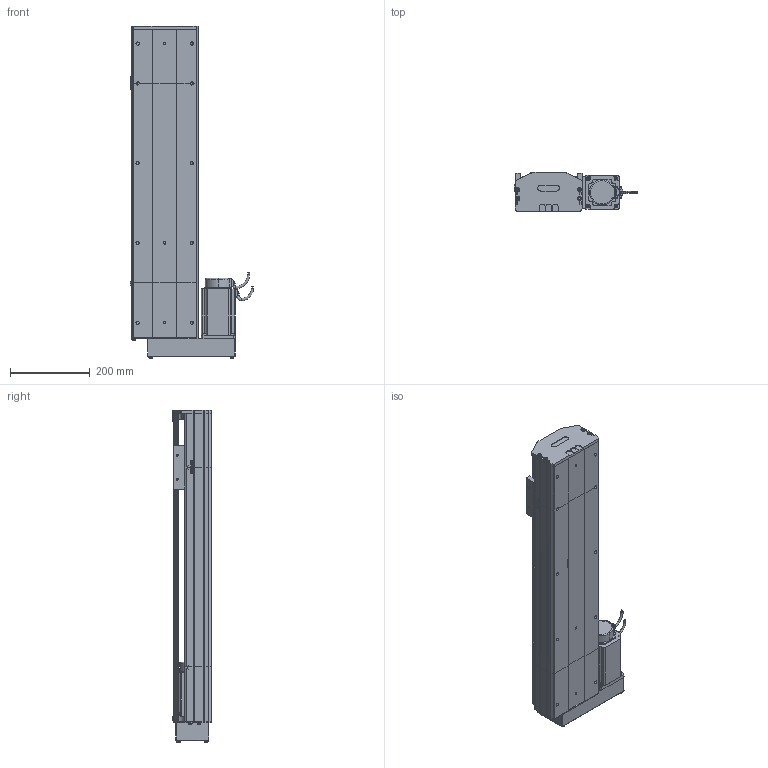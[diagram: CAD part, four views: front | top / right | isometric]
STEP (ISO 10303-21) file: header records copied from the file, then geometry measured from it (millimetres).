
FILE_DESCRIPTION (( 'STEP AP214' ), '1' );
FILE_NAME ('D17 TSN BL S500.STEP', '2010-06-30T07:32:00', ( 'Christophe Gaillard' ), ( 'SGA' ), 'SwSTEP 2.0', 'SolidWorks 2010', '' );
FILE_SCHEMA (( 'AUTOMOTIVE_DESIGN' ));
Length unit declared in the file: millimetre
Products named in the file (33): codeur 90BLDC125-640; corps 90BLDC125A-640; Conecteur2_Default; guide D17; Chariot D17 TBN; vis M5 L12_Default; renvoi BL_Default; Vis M5 L16-2_Default; chariot D17 TSN; Cvis M5 L70_Default; Conecteur_Default; arbre + rail D17 Course 500 ; course 500 D17_Default; D17 TSN BL S500; Tail D17+L100_Default; couvercle D17 course L500_Default; corp D17 500_Default; tete d''axe bas D17; plaque de  bout tail D17_Default; corpl tail D17+L100_Default; couvercle D17_Default; Arbre+rail tail D17; tete d''axe haut D17; head BL_Default; vis M5 L25_Default; vis M5 L8 90°_Default; Arbre+rail head D17; plaque de  bout BM head D17_Default; couvercle D17 head_Default; corpl head D17 BM_Default; avant 90BLDC125A-640; Moteur motionking 90BLDC125A-640; vis M5 L5_Default
Assembly tree (51 placements, depth 4):
  D17 TSN BL S500
    head BL_Default
      vis M5 L12_Default  x8
      Vis M5 L16-2_Default  x4
      Arbre+rail head D17
      plaque de  bout BM head D17_Default
      Cvis M5 L70_Default  x2
      vis M5 L5_Default  x2
      couvercle D17 head_Default
      renvoi BL_Default
      Moteur motionking 90BLDC125A-640
        codeur 90BLDC125-640
        Conecteur_Default
        avant 90BLDC125A-640
        Conecteur2_Default
        corps 90BLDC125A-640
      corpl head D17 BM_Default
    Tail D17+L100_Default
      couvercle D17_Default
      tete d''axe haut D17
      vis M5 L12_Default  x4
      vis M5 L8 90°_Default  x2
      plaque de  bout tail D17_Default
      vis M5 L25_Default  x2
      corpl tail D17+L100_Default
      Arbre+rail tail D17
      tete d''axe bas D17
    course 500 D17_Default
      arbre + rail D17 Course 500 
      corp D17 500_Default
      couvercle D17 course L500_Default
    chariot D17 TSN
      Chariot D17 TBN
      guide D17  x2
Bounding box: 308.95 x 99.7 x 832.7 mm (x, y, z)
Volume: 6040542.9 mm3; surface area: 1501052.9 mm2
Topology: 75 solids, 75 shells, 2115 faces, 5345 edges, 3456 vertices
Faces by surface type: plane 1326, cylinder 528, bspline 136, torus 65, cone 56, sphere 4
Entity records: 70766 total; most frequent: CARTESIAN_POINT 22436, ORIENTED_EDGE 8598, DIRECTION 8012, EDGE_CURVE 4299, LINE 3016, VECTOR 3016, VERTEX_POINT 2822, AXIS2_PLACEMENT_3D 2498
